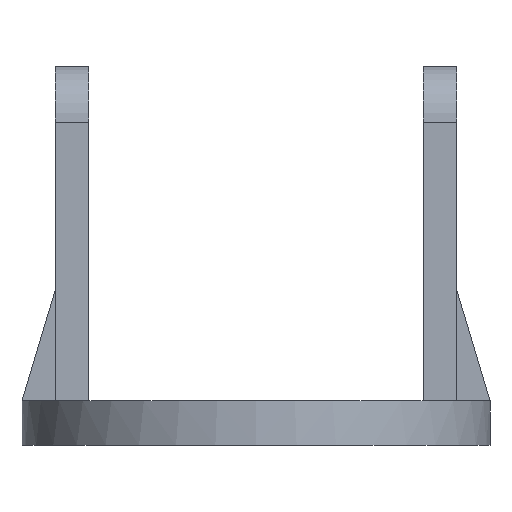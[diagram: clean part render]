
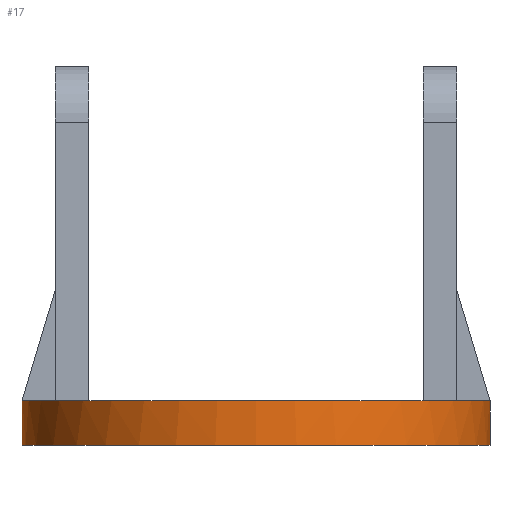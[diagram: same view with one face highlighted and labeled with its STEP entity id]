
A CAD part, front view. The second image highlights one B-rep face of the part: STEP entity #17.
In plain terms, the highlighted cylindrical face has radius 21 mm (diameter 42 mm), a full revolution.
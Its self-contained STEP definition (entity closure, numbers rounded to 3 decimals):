
#17 = ADVANCED_FACE('',(#18),#33,.T.);
#18 = FACE_BOUND('',#19,.T.);
#19 = EDGE_LOOP('',(#20,#56,#79,#106,#107,#136,#165,#198,#231));
#20 = ORIENTED_EDGE('',*,*,#21,.F.);
#21 = EDGE_CURVE('',#22,#24,#26,.T.);
#22 = VERTEX_POINT('',#23);
#23 = CARTESIAN_POINT('',(21.,0.,-25.));
#24 = VERTEX_POINT('',#25);
#25 = CARTESIAN_POINT('',(20.946,1.5,-25.));
#26 = SURFACE_CURVE('',#27,(#32,#44),.PCURVE_S1.);
#27 = CIRCLE('',#28,21.);
#28 = AXIS2_PLACEMENT_3D('',#29,#30,#31);
#29 = CARTESIAN_POINT('',(0.,0.,-25.));
#30 = DIRECTION('',(0.,0.,1.));
#31 = DIRECTION('',(1.,0.,-0.));
#32 = PCURVE('',#33,#38);
#33 = CYLINDRICAL_SURFACE('',#34,21.);
#34 = AXIS2_PLACEMENT_3D('',#35,#36,#37);
#35 = CARTESIAN_POINT('',(0.,0.,-29.));
#36 = DIRECTION('',(0.,0.,1.));
#37 = DIRECTION('',(1.,0.,-0.));
#38 = DEFINITIONAL_REPRESENTATION('',(#39),#43);
#39 = LINE('',#40,#41);
#40 = CARTESIAN_POINT('',(0.,4.));
#41 = VECTOR('',#42,1.);
#42 = DIRECTION('',(1.,0.));
#43 = ( GEOMETRIC_REPRESENTATION_CONTEXT(2) 
PARAMETRIC_REPRESENTATION_CONTEXT() REPRESENTATION_CONTEXT('2D SPACE',''
  ) );
#44 = PCURVE('',#45,#50);
#45 = PLANE('',#46);
#46 = AXIS2_PLACEMENT_3D('',#47,#48,#49);
#47 = CARTESIAN_POINT('',(18.,0.,-25.));
#48 = DIRECTION('',(-0.,0.,1.));
#49 = DIRECTION('',(1.,0.,0.));
#50 = DEFINITIONAL_REPRESENTATION('',(#51),#55);
#51 = CIRCLE('',#52,21.);
#52 = AXIS2_PLACEMENT_2D('',#53,#54);
#53 = CARTESIAN_POINT('',(-18.,0.));
#54 = DIRECTION('',(1.,0.));
#55 = ( GEOMETRIC_REPRESENTATION_CONTEXT(2) 
PARAMETRIC_REPRESENTATION_CONTEXT() REPRESENTATION_CONTEXT('2D SPACE',''
  ) );
#56 = ORIENTED_EDGE('',*,*,#57,.F.);
#57 = EDGE_CURVE('',#58,#22,#60,.T.);
#58 = VERTEX_POINT('',#59);
#59 = CARTESIAN_POINT('',(21.,0.,-29.));
#60 = SEAM_CURVE('',#61,(#65,#72),.PCURVE_S1.);
#61 = LINE('',#62,#63);
#62 = CARTESIAN_POINT('',(21.,0.,-29.));
#63 = VECTOR('',#64,1.);
#64 = DIRECTION('',(0.,0.,1.));
#65 = PCURVE('',#33,#66);
#66 = DEFINITIONAL_REPRESENTATION('',(#67),#71);
#67 = LINE('',#68,#69);
#68 = CARTESIAN_POINT('',(6.283,-0.));
#69 = VECTOR('',#70,1.);
#70 = DIRECTION('',(0.,1.));
#71 = ( GEOMETRIC_REPRESENTATION_CONTEXT(2) 
PARAMETRIC_REPRESENTATION_CONTEXT() REPRESENTATION_CONTEXT('2D SPACE',''
  ) );
#72 = PCURVE('',#33,#73);
#73 = DEFINITIONAL_REPRESENTATION('',(#74),#78);
#74 = LINE('',#75,#76);
#75 = CARTESIAN_POINT('',(0.,-0.));
#76 = VECTOR('',#77,1.);
#77 = DIRECTION('',(0.,1.));
#78 = ( GEOMETRIC_REPRESENTATION_CONTEXT(2) 
PARAMETRIC_REPRESENTATION_CONTEXT() REPRESENTATION_CONTEXT('2D SPACE',''
  ) );
#79 = ORIENTED_EDGE('',*,*,#80,.T.);
#80 = EDGE_CURVE('',#58,#58,#81,.T.);
#81 = SURFACE_CURVE('',#82,(#87,#94),.PCURVE_S1.);
#82 = CIRCLE('',#83,21.);
#83 = AXIS2_PLACEMENT_3D('',#84,#85,#86);
#84 = CARTESIAN_POINT('',(0.,0.,-29.));
#85 = DIRECTION('',(0.,0.,1.));
#86 = DIRECTION('',(1.,0.,-0.));
#87 = PCURVE('',#33,#88);
#88 = DEFINITIONAL_REPRESENTATION('',(#89),#93);
#89 = LINE('',#90,#91);
#90 = CARTESIAN_POINT('',(0.,0.));
#91 = VECTOR('',#92,1.);
#92 = DIRECTION('',(1.,0.));
#93 = ( GEOMETRIC_REPRESENTATION_CONTEXT(2) 
PARAMETRIC_REPRESENTATION_CONTEXT() REPRESENTATION_CONTEXT('2D SPACE',''
  ) );
#94 = PCURVE('',#95,#100);
#95 = PLANE('',#96);
#96 = AXIS2_PLACEMENT_3D('',#97,#98,#99);
#97 = CARTESIAN_POINT('',(0.,0.,-29.));
#98 = DIRECTION('',(0.,0.,1.));
#99 = DIRECTION('',(1.,0.,-0.));
#100 = DEFINITIONAL_REPRESENTATION('',(#101),#105);
#101 = CIRCLE('',#102,21.);
#102 = AXIS2_PLACEMENT_2D('',#103,#104);
#103 = CARTESIAN_POINT('',(0.,0.));
#104 = DIRECTION('',(1.,0.));
#105 = ( GEOMETRIC_REPRESENTATION_CONTEXT(2) 
PARAMETRIC_REPRESENTATION_CONTEXT() REPRESENTATION_CONTEXT('2D SPACE',''
  ) );
#106 = ORIENTED_EDGE('',*,*,#57,.T.);
#107 = ORIENTED_EDGE('',*,*,#108,.F.);
#108 = EDGE_CURVE('',#109,#22,#111,.T.);
#109 = VERTEX_POINT('',#110);
#110 = CARTESIAN_POINT('',(20.946,-1.5,-25.));
#111 = SURFACE_CURVE('',#112,(#117,#124),.PCURVE_S1.);
#112 = CIRCLE('',#113,21.);
#113 = AXIS2_PLACEMENT_3D('',#114,#115,#116);
#114 = CARTESIAN_POINT('',(0.,0.,-25.));
#115 = DIRECTION('',(0.,0.,1.));
#116 = DIRECTION('',(1.,0.,-0.));
#117 = PCURVE('',#33,#118);
#118 = DEFINITIONAL_REPRESENTATION('',(#119),#123);
#119 = LINE('',#120,#121);
#120 = CARTESIAN_POINT('',(0.,4.));
#121 = VECTOR('',#122,1.);
#122 = DIRECTION('',(1.,0.));
#123 = ( GEOMETRIC_REPRESENTATION_CONTEXT(2) 
PARAMETRIC_REPRESENTATION_CONTEXT() REPRESENTATION_CONTEXT('2D SPACE',''
  ) );
#124 = PCURVE('',#125,#130);
#125 = PLANE('',#126);
#126 = AXIS2_PLACEMENT_3D('',#127,#128,#129);
#127 = CARTESIAN_POINT('',(18.,0.,-25.));
#128 = DIRECTION('',(-0.,0.,1.));
#129 = DIRECTION('',(1.,0.,0.));
#130 = DEFINITIONAL_REPRESENTATION('',(#131),#135);
#131 = CIRCLE('',#132,21.);
#132 = AXIS2_PLACEMENT_2D('',#133,#134);
#133 = CARTESIAN_POINT('',(-18.,0.));
#134 = DIRECTION('',(1.,0.));
#135 = ( GEOMETRIC_REPRESENTATION_CONTEXT(2) 
PARAMETRIC_REPRESENTATION_CONTEXT() REPRESENTATION_CONTEXT('2D SPACE',''
  ) );
#136 = ORIENTED_EDGE('',*,*,#137,.F.);
#137 = EDGE_CURVE('',#138,#109,#140,.T.);
#138 = VERTEX_POINT('',#139);
#139 = CARTESIAN_POINT('',(-20.946,-1.5,-25.));
#140 = SURFACE_CURVE('',#141,(#146,#153),.PCURVE_S1.);
#141 = CIRCLE('',#142,21.);
#142 = AXIS2_PLACEMENT_3D('',#143,#144,#145);
#143 = CARTESIAN_POINT('',(0.,0.,-25.));
#144 = DIRECTION('',(0.,0.,1.));
#145 = DIRECTION('',(1.,0.,-0.));
#146 = PCURVE('',#33,#147);
#147 = DEFINITIONAL_REPRESENTATION('',(#148),#152);
#148 = LINE('',#149,#150);
#149 = CARTESIAN_POINT('',(0.,4.));
#150 = VECTOR('',#151,1.);
#151 = DIRECTION('',(1.,0.));
#152 = ( GEOMETRIC_REPRESENTATION_CONTEXT(2) 
PARAMETRIC_REPRESENTATION_CONTEXT() REPRESENTATION_CONTEXT('2D SPACE',''
  ) );
#153 = PCURVE('',#154,#159);
#154 = PLANE('',#155);
#155 = AXIS2_PLACEMENT_3D('',#156,#157,#158);
#156 = CARTESIAN_POINT('',(0.,0.,-25.));
#157 = DIRECTION('',(0.,0.,1.));
#158 = DIRECTION('',(1.,0.,-0.));
#159 = DEFINITIONAL_REPRESENTATION('',(#160),#164);
#160 = CIRCLE('',#161,21.);
#161 = AXIS2_PLACEMENT_2D('',#162,#163);
#162 = CARTESIAN_POINT('',(0.,0.));
#163 = DIRECTION('',(1.,0.));
#164 = ( GEOMETRIC_REPRESENTATION_CONTEXT(2) 
PARAMETRIC_REPRESENTATION_CONTEXT() REPRESENTATION_CONTEXT('2D SPACE',''
  ) );
#165 = ORIENTED_EDGE('',*,*,#166,.F.);
#166 = EDGE_CURVE('',#167,#138,#169,.T.);
#167 = VERTEX_POINT('',#168);
#168 = CARTESIAN_POINT('',(-21.,0.,-25.));
#169 = SURFACE_CURVE('',#170,(#175,#182),.PCURVE_S1.);
#170 = CIRCLE('',#171,21.);
#171 = AXIS2_PLACEMENT_3D('',#172,#173,#174);
#172 = CARTESIAN_POINT('',(0.,0.,-25.));
#173 = DIRECTION('',(0.,0.,1.));
#174 = DIRECTION('',(1.,0.,-0.));
#175 = PCURVE('',#33,#176);
#176 = DEFINITIONAL_REPRESENTATION('',(#177),#181);
#177 = LINE('',#178,#179);
#178 = CARTESIAN_POINT('',(0.,4.));
#179 = VECTOR('',#180,1.);
#180 = DIRECTION('',(1.,0.));
#181 = ( GEOMETRIC_REPRESENTATION_CONTEXT(2) 
PARAMETRIC_REPRESENTATION_CONTEXT() REPRESENTATION_CONTEXT('2D SPACE',''
  ) );
#182 = PCURVE('',#183,#188);
#183 = PLANE('',#184);
#184 = AXIS2_PLACEMENT_3D('',#185,#186,#187);
#185 = CARTESIAN_POINT('',(-18.,0.,-25.));
#186 = DIRECTION('',(-0.,-0.,-1.));
#187 = DIRECTION('',(-1.,0.,0.));
#188 = DEFINITIONAL_REPRESENTATION('',(#189),#197);
#189 = ( BOUNDED_CURVE() B_SPLINE_CURVE(2,(#190,#191,#192,#193,#194,#195
,#196),.UNSPECIFIED.,.T.,.F.) B_SPLINE_CURVE_WITH_KNOTS((1,2,2,2,2,1),(
    -2.094,0.,2.094,4.189,6.283,
8.378),.UNSPECIFIED.) CURVE() GEOMETRIC_REPRESENTATION_ITEM() 
RATIONAL_B_SPLINE_CURVE((1.,0.5,1.,0.5,1.,0.5,1.)) REPRESENTATION_ITEM(
  '') );
#190 = CARTESIAN_POINT('',(-39.,0.));
#191 = CARTESIAN_POINT('',(-39.,36.373));
#192 = CARTESIAN_POINT('',(-7.5,18.187));
#193 = CARTESIAN_POINT('',(24.,0.));
#194 = CARTESIAN_POINT('',(-7.5,-18.187));
#195 = CARTESIAN_POINT('',(-39.,-36.373));
#196 = CARTESIAN_POINT('',(-39.,0.));
#197 = ( GEOMETRIC_REPRESENTATION_CONTEXT(2) 
PARAMETRIC_REPRESENTATION_CONTEXT() REPRESENTATION_CONTEXT('2D SPACE',''
  ) );
#198 = ORIENTED_EDGE('',*,*,#199,.F.);
#199 = EDGE_CURVE('',#200,#167,#202,.T.);
#200 = VERTEX_POINT('',#201);
#201 = CARTESIAN_POINT('',(-20.946,1.5,-25.));
#202 = SURFACE_CURVE('',#203,(#208,#215),.PCURVE_S1.);
#203 = CIRCLE('',#204,21.);
#204 = AXIS2_PLACEMENT_3D('',#205,#206,#207);
#205 = CARTESIAN_POINT('',(0.,0.,-25.));
#206 = DIRECTION('',(0.,0.,1.));
#207 = DIRECTION('',(1.,0.,-0.));
#208 = PCURVE('',#33,#209);
#209 = DEFINITIONAL_REPRESENTATION('',(#210),#214);
#210 = LINE('',#211,#212);
#211 = CARTESIAN_POINT('',(0.,4.));
#212 = VECTOR('',#213,1.);
#213 = DIRECTION('',(1.,0.));
#214 = ( GEOMETRIC_REPRESENTATION_CONTEXT(2) 
PARAMETRIC_REPRESENTATION_CONTEXT() REPRESENTATION_CONTEXT('2D SPACE',''
  ) );
#215 = PCURVE('',#216,#221);
#216 = PLANE('',#217);
#217 = AXIS2_PLACEMENT_3D('',#218,#219,#220);
#218 = CARTESIAN_POINT('',(-18.,0.,-25.));
#219 = DIRECTION('',(-0.,-0.,-1.));
#220 = DIRECTION('',(-1.,0.,0.));
#221 = DEFINITIONAL_REPRESENTATION('',(#222),#230);
#222 = ( BOUNDED_CURVE() B_SPLINE_CURVE(2,(#223,#224,#225,#226,#227,#228
,#229),.UNSPECIFIED.,.T.,.F.) B_SPLINE_CURVE_WITH_KNOTS((1,2,2,2,2,1),(
    -2.094,0.,2.094,4.189,6.283,
8.378),.UNSPECIFIED.) CURVE() GEOMETRIC_REPRESENTATION_ITEM() 
RATIONAL_B_SPLINE_CURVE((1.,0.5,1.,0.5,1.,0.5,1.)) REPRESENTATION_ITEM(
  '') );
#223 = CARTESIAN_POINT('',(-39.,0.));
#224 = CARTESIAN_POINT('',(-39.,36.373));
#225 = CARTESIAN_POINT('',(-7.5,18.187));
#226 = CARTESIAN_POINT('',(24.,0.));
#227 = CARTESIAN_POINT('',(-7.5,-18.187));
#228 = CARTESIAN_POINT('',(-39.,-36.373));
#229 = CARTESIAN_POINT('',(-39.,0.));
#230 = ( GEOMETRIC_REPRESENTATION_CONTEXT(2) 
PARAMETRIC_REPRESENTATION_CONTEXT() REPRESENTATION_CONTEXT('2D SPACE',''
  ) );
#231 = ORIENTED_EDGE('',*,*,#232,.F.);
#232 = EDGE_CURVE('',#24,#200,#233,.T.);
#233 = SURFACE_CURVE('',#234,(#239,#246),.PCURVE_S1.);
#234 = CIRCLE('',#235,21.);
#235 = AXIS2_PLACEMENT_3D('',#236,#237,#238);
#236 = CARTESIAN_POINT('',(0.,0.,-25.));
#237 = DIRECTION('',(0.,0.,1.));
#238 = DIRECTION('',(1.,0.,-0.));
#239 = PCURVE('',#33,#240);
#240 = DEFINITIONAL_REPRESENTATION('',(#241),#245);
#241 = LINE('',#242,#243);
#242 = CARTESIAN_POINT('',(0.,4.));
#243 = VECTOR('',#244,1.);
#244 = DIRECTION('',(1.,0.));
#245 = ( GEOMETRIC_REPRESENTATION_CONTEXT(2) 
PARAMETRIC_REPRESENTATION_CONTEXT() REPRESENTATION_CONTEXT('2D SPACE',''
  ) );
#246 = PCURVE('',#154,#247);
#247 = DEFINITIONAL_REPRESENTATION('',(#248),#252);
#248 = CIRCLE('',#249,21.);
#249 = AXIS2_PLACEMENT_2D('',#250,#251);
#250 = CARTESIAN_POINT('',(0.,0.));
#251 = DIRECTION('',(1.,0.));
#252 = ( GEOMETRIC_REPRESENTATION_CONTEXT(2) 
PARAMETRIC_REPRESENTATION_CONTEXT() REPRESENTATION_CONTEXT('2D SPACE',''
  ) );
